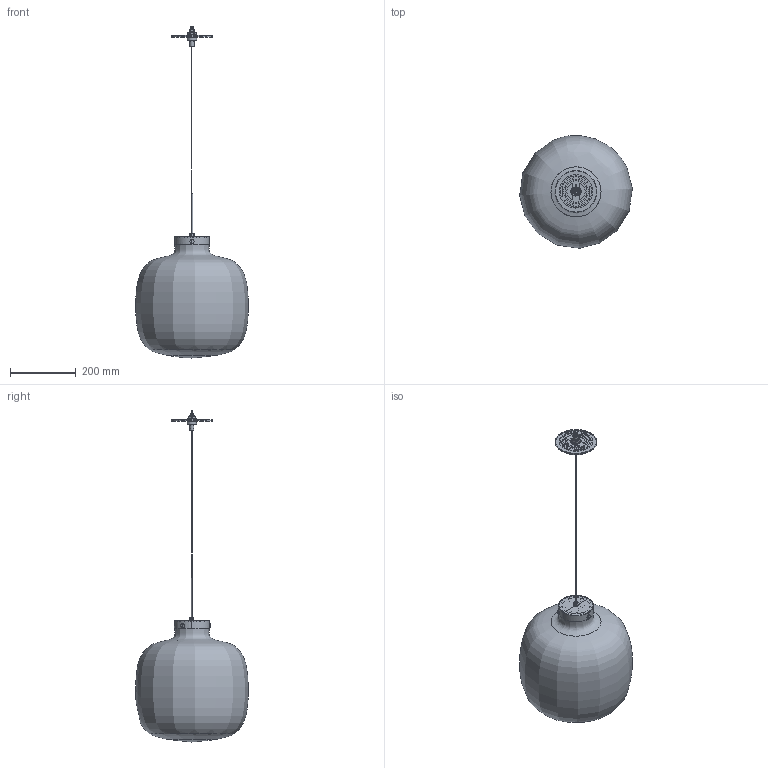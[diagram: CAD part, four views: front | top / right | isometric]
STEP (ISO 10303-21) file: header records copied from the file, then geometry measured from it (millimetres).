
FILE_DESCRIPTION(/* description */ (''),/* implementation_level */ '2;1');
FILE_NAME(/* name */ 'C:/Users/zach/Niche/Product Development - Documents/CAD Models/Pendants/Constellation Collection/Brava Series/Brava Wide/Glass - Low Voltage Hardware/Niche - Brava Wide Pendant.step',/* time_stamp */ '2022-09-02T10:19:55-04:00',/* author */ (''),/* organization */ (''),/* preprocessor_version */ 'ST-DEVELOPER v19',/* originating_system */ 'Autodesk Translation Framework v11.7.0.108',/* authorisation */ '');
FILE_SCHEMA (('AUTOMOTIVE_DESIGN { 1 0 10303 214 3 1 1 }'));
Length unit declared in the file: inch
Products named in the file (2): Brava Wide; Brava Wide_1
Assembly tree (1 placements, depth 2):
  Brava Wide
    Brava Wide_1
Bounding box: 343.22 x 342.88 x 1011.13 mm (x, y, z)
Volume: 1675373.2 mm3; surface area: 940438.8 mm2
Topology: 29 solids, 29 shells, 712 faces, 1754 edges, 1154 vertices
Faces by surface type: plane 411, cylinder 194, bspline 70, cone 34, sphere 2, torus 1
Full cylindrical faces by diameter (mm): 0.571 x2, 1.016 x2, 1.778 x2, 2.032 x1, 2.54 x4, 2.794 x1, 3.302 x7, 3.556 x4, 3.81 x5, 4.064 x3, 4.826 x1, 5.08 x2, 5.461 x1, 6.096 x3, 7.6 x3, 8.128 x1, 8.89 x2, 9.312 x4, 10.16 x2, 12.7 x4, 13.97 x1, 18.923 x1, 19.558 x1, 22.86 x2, 24.13 x1, 26.924 x1, 28.194 x2, 82.55 x1, 101.6 x2, 125.476 x1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
Entity records: 27899 total; most frequent: CARTESIAN_POINT 11267, ORIENTED_EDGE 3500, DIRECTION 3139, EDGE_CURVE 1750, VERTEX_POINT 1154, AXIS2_PLACEMENT_3D 1049, LINE 1041, VECTOR 1041
